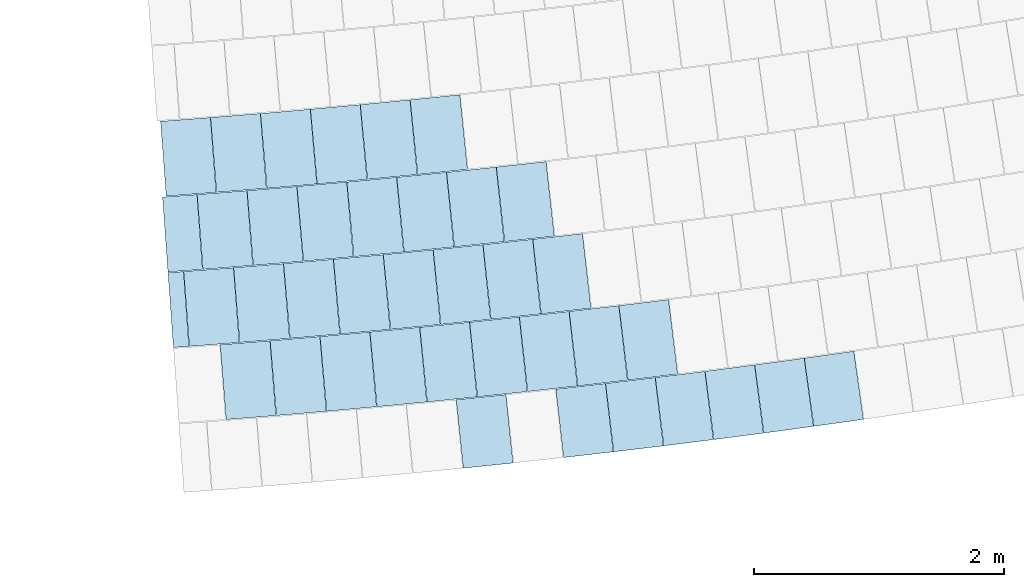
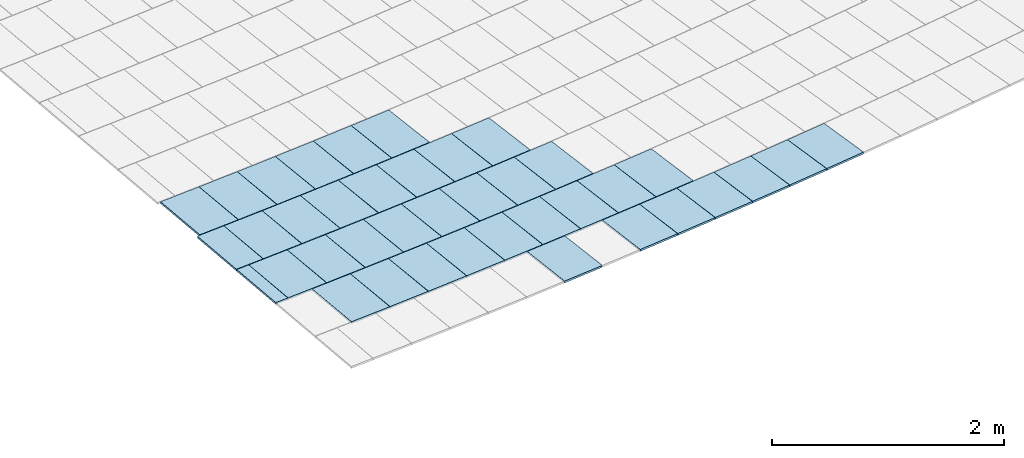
# One storey, part 23 of 438: 39 slabs.
"""IFC2X3 building model written with IfcOpenShell, lengths in millimetres."""

import ifcopenshell
import ifcopenshell.guid

model = None  # the IFC model being written
_history = None  # IfcOwnerHistory: only IFC2X3 demands one
_inside = {}  # id of a spatial element -> (the spatial element, [elements in it])
_under = {}  # id of a project, library or spatial element -> (it, [spatial elements below it])
_declared = {}  # id of a project -> (the project, [libraries it declares])
_typed = {}  # id of a type object -> (the type object, [elements of that type])
_made_of = {}  # id of a material, layer set ... -> (it, [elements and type objects made of it])


def new_model(schema):
    """Start an empty IFC model of exactly this schema.

    Asked for "IFC4X3", IfcOpenShell would pick the latest addendum, in which some entities
    have other attributes; the version numbers below select the first issue.
    IFC2X3 requires an IfcOwnerHistory on every rooted entity: one is made here for all.
    """
    global model, _history
    if schema == "IFC4X3":
        model = ifcopenshell.file(schema_version=(4, 3, 0, 0))
    else:
        model = ifcopenshell.file(schema=schema)
    _inside.clear()
    _under.clear()
    _declared.clear()
    _typed.clear()
    _made_of.clear()
    _history = None
    if model.schema == "IFC2X3":
        org = make("IfcOrganization", Name="unknown")
        user = make(
            "IfcPersonAndOrganization",
            ThePerson=make("IfcPerson", FamilyName="unknown"),
            TheOrganization=org,
        )
        app = make(
            "IfcApplication",
            ApplicationDeveloper=org,
            Version="unknown",
            ApplicationFullName="unknown",
            ApplicationIdentifier="unknown",
        )
        _history = make(
            "IfcOwnerHistory",
            OwningUser=user,
            OwningApplication=app,
            ChangeAction="ADDED",
            CreationDate=0,
        )
    return model


def make(cls, **values):
    """One entity of the class cls with the attributes given. An attribute that is None is left unset."""
    return model.create_entity(
        cls, **{name: value for name, value in values.items() if value is not None}
    )


def entity(cls, *values):
    """Any entity or typed value of the class cls, its attributes in the order of the schema. None: left unset."""
    e = model.create_entity(cls)
    for i, value in enumerate(values):
        if value is not None:
            e[i] = value
    return e


def rooted(cls, **values):
    """An entity with a GlobalId (a new one), such as an element, a storey or a relation."""
    return make(cls, GlobalId=ifcopenshell.guid.new(), OwnerHistory=_history, **values)


def si_unit(unit_type, name, prefix=None):
    """IfcSIUnit, for example si_unit("LENGTHUNIT", "METRE", prefix="MILLI")."""
    return make("IfcSIUnit", UnitType=unit_type, Prefix=prefix, Name=name)


def converted_unit(unit_type, name, factor, base, dimensions=None, offset=None):
    """IfcConversionBasedUnit, such as the inch: factor (a typed value) times the base unit."""
    return make(
        "IfcConversionBasedUnit"
        if offset is None
        else "IfcConversionBasedUnitWithOffset",
        ConversionOffset=offset,
        Dimensions=None
        if dimensions is None
        else entity("IfcDimensionalExponents", *dimensions),
        UnitType=unit_type,
        Name=name,
        ConversionFactor=make(
            "IfcMeasureWithUnit", ValueComponent=factor, UnitComponent=base
        ),
    )


def derived_unit(unit_type, elements):
    """IfcDerivedUnit: a product of units, each with its exponent."""
    return make(
        "IfcDerivedUnit",
        Elements=[
            make("IfcDerivedUnitElement", Unit=unit, Exponent=power)
            for unit, power in elements
        ],
        UnitType=unit_type,
    )


def assignment(units):
    """IfcUnitAssignment: the units of a project."""
    return None if units is None else make("IfcUnitAssignment", Units=units)


def point(xyz):
    """IfcCartesianPoint."""
    return None if xyz is None else make("IfcCartesianPoint", Coordinates=xyz)


def direction(xyz):
    """IfcDirection."""
    return None if xyz is None else make("IfcDirection", DirectionRatios=xyz)


def frame(location, z_axis=None, x_axis=None):
    """IfcAxis2Placement3D, a coordinate frame: its origin and axes. An axis left out is left unset."""
    return make(
        "IfcAxis2Placement3D",
        Location=point(location),
        Axis=direction(z_axis),
        RefDirection=direction(x_axis),
    )


def frame_2d(location, x_axis=None):
    """IfcAxis2Placement2D, a coordinate frame in the plane: its origin and x axis."""
    return make(
        "IfcAxis2Placement2D", Location=point(location), RefDirection=direction(x_axis)
    )


def origin():
    """The frame at (0, 0, 0) with its axes left unset."""
    return frame((0.0, 0.0, 0.0))


def place(relative_to, where):
    """IfcLocalPlacement: puts the frame where relative to a parent placement (None: the world)."""
    return make(
        "IfcLocalPlacement", PlacementRelTo=relative_to, RelativePlacement=where
    )


def context(
    kind, dimensions, precision=None, world=None, true_north=None, identifier=None
):
    """IfcGeometricRepresentationContext, for example the 3D "Model" context."""
    return make(
        "IfcGeometricRepresentationContext",
        ContextIdentifier=identifier,
        ContextType=kind,
        CoordinateSpaceDimension=dimensions,
        Precision=precision,
        WorldCoordinateSystem=world,
        TrueNorth=true_north,
    )


def subcontext(parent, identifier, kind, view, scale=None):
    """IfcGeometricRepresentationSubContext, for example "Body" below "Model"."""
    return make(
        "IfcGeometricRepresentationSubContext",
        ContextIdentifier=identifier,
        ContextType=kind,
        ParentContext=parent,
        TargetScale=scale,
        TargetView=view,
    )


def project(units=None, contexts=None):
    """IfcProject with its units and contexts."""
    return rooted(
        "IfcProject",
        Name="project",
        RepresentationContexts=contexts,
        UnitsInContext=assignment(units),
    )


def spatial(cls, under=None, at=None, **own):
    """A site, building, storey or space (cls), placed at a placement, below another one or the project."""
    s = rooted(cls, ObjectPlacement=at, **own)
    if under is not None:
        _under.setdefault(under.id(), (under, []))[1].append(s)
    return s


def polyline(points):
    """IfcPolyline through the points."""
    return make("IfcPolyline", Points=[point(p) for p in points])


def profile(cls, at=None, kind="AREA", **sizes):
    """A parametric profile (cls). Its sizes go by their IFC names, for example OverallWidth=200.0."""
    return make(cls, ProfileType=kind, Position=at, **sizes)


def rectangle(**sizes):
    """IfcRectangleProfileDef."""
    return profile("IfcRectangleProfileDef", **sizes)


def outline(outer, holes=None, kind="AREA"):
    """IfcArbitraryClosedProfileDef: a profile drawn as a closed curve; with holes, ...WithVoids."""
    if holes is None:
        return make("IfcArbitraryClosedProfileDef", ProfileType=kind, OuterCurve=outer)
    return make(
        "IfcArbitraryProfileDefWithVoids",
        ProfileType=kind,
        OuterCurve=outer,
        InnerCurves=holes,
    )


def extrude(swept, where, along, depth):
    """IfcExtrudedAreaSolid: the profile swept, set in the frame where, extruded along a direction by depth."""
    return make(
        "IfcExtrudedAreaSolid",
        SweptArea=swept,
        Position=where,
        ExtrudedDirection=direction(along),
        Depth=depth,
    )


def shape(context_of_items, identifier, shape_type, items):
    """IfcShapeRepresentation: the items that make up one representation, for example the "Body"."""
    return make(
        "IfcShapeRepresentation",
        ContextOfItems=context_of_items,
        RepresentationIdentifier=identifier,
        RepresentationType=shape_type,
        Items=items,
    )


def material(Name=None, Category=None):
    """IfcMaterial."""
    return make("IfcMaterial", Name=Name, Category=Category)


def layer(
    of_material, thickness, ventilated=None, Name=None, Category=None, Priority=None
):
    """IfcMaterialLayer: one layer of a wall or slab, of a material (None: an air gap)."""
    return make(
        "IfcMaterialLayer",
        Material=of_material,
        LayerThickness=thickness,
        IsVentilated=ventilated,
        Name=Name,
        Category=Category,
        Priority=Priority,
    )


def layer_set(layers, Name=None):
    """IfcMaterialLayerSet."""
    return make("IfcMaterialLayerSet", MaterialLayers=layers, LayerSetName=Name)


def layer_usage(for_layer_set, set_direction, sense, offset, extent=None):
    """IfcMaterialLayerSetUsage: how a layer set lies in its element."""
    return make(
        "IfcMaterialLayerSetUsage",
        ForLayerSet=for_layer_set,
        LayerSetDirection=set_direction,
        DirectionSense=sense,
        OffsetFromReferenceLine=offset,
        ReferenceExtent=extent,
    )


def made_of(thing, what):
    """Note that an element or type object is made of a material, layer set ...; save() writes the relation."""
    if what is not None:
        _made_of.setdefault(what.id(), (what, []))[1].append(thing)
    return thing


def type_object(cls, material=None, **own):
    """A type object (cls), such as IfcWallType, which elements share."""
    return made_of(rooted(cls, **own), material)


def element(
    cls,
    number,
    at=None,
    inside=None,
    cuts=None,
    type_object=None,
    material=None,
    context=None,
    identifier="Body",
    shape_type=None,
    held_by="IfcProductDefinitionShape",
    body=None,
    shapes=None,
    **own,
):
    """One element of the class cls, such as IfcWall. Its Tag is "e" and its number.

    at: its placement. inside: the storey or other place that contains it. cuts: it is an
    opening in that element (IfcRelVoidsElement). A single representation is given by context,
    identifier, shape_type and body (its items); several are given by shapes. held_by: the class
    of the entity that holds the representations. save() writes the other relations.
    """
    e = rooted(cls, Tag="e%d" % number, ObjectPlacement=at, **own)
    if body is not None:
        shapes = [shape(context, identifier, shape_type, body)]
    if shapes is not None:
        e.Representation = make(held_by, Representations=shapes)
    if inside is not None:
        _inside.setdefault(inside.id(), (inside, []))[1].append(e)
    if cuts is not None:
        rooted(
            "IfcRelVoidsElement", RelatingBuildingElement=cuts, RelatedOpeningElement=e
        )
    if type_object is not None:
        _typed.setdefault(type_object.id(), (type_object, []))[1].append(e)
    return made_of(e, material)


def aggregate(whole, parts):
    """IfcRelAggregates: a whole, such as a stair, and the parts it consists of."""
    return rooted("IfcRelAggregates", RelatingObject=whole, RelatedObjects=parts)


def save(model, path):
    """Write the relations noted so far, then the file.

    IfcRelAggregates (storeys below a building ...), IfcRelContainedInSpatialStructure (elements
    in a storey), IfcRelDefinesByType, IfcRelAssociatesMaterial and IfcRelDeclares: one each for
    every whole, place, type object, material and project.
    """
    for whole, parts in _under.values():
        aggregate(whole, parts)
    for where, things in _inside.values():
        rooted(
            "IfcRelContainedInSpatialStructure",
            RelatedElements=things,
            RelatingStructure=where,
        )
    for kind, things in _typed.values():
        rooted("IfcRelDefinesByType", RelatedObjects=things, RelatingType=kind)
    for what, things in _made_of.values():
        rooted("IfcRelAssociatesMaterial", RelatedObjects=things, RelatingMaterial=what)
    for by, libraries in _declared.values():
        rooted("IfcRelDeclares", RelatingContext=by, RelatedDefinitions=libraries)
    model.write(path)


model = new_model("IFC2X3")

# Units and contexts
model_context = context("Model", 3, precision=0.01, world=origin(), true_north=direction((6.123031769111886e-17, 1.0)))
body_context = subcontext(model_context, "Body", "Model", "MODEL_VIEW")
ifc_project = project(units=[si_unit("LENGTHUNIT", "METRE", prefix="MILLI"), si_unit("AREAUNIT", "SQUARE_METRE"), si_unit("VOLUMEUNIT", "CUBIC_METRE"), converted_unit("PLANEANGLEUNIT", "DEGREE", entity("IfcRatioMeasure", 0.017453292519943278), si_unit("PLANEANGLEUNIT", "RADIAN"), dimensions=[0, 0, 0, 0, 0, 0, 0]), si_unit("MASSUNIT", "GRAM", prefix="KILO"), derived_unit("MASSDENSITYUNIT", [(si_unit("MASSUNIT", "GRAM", prefix="KILO"), 1), (si_unit("LENGTHUNIT", "METRE"), -3)]), derived_unit("MOMENTOFINERTIAUNIT", [(si_unit("LENGTHUNIT", "METRE"), 4)]), si_unit("TIMEUNIT", "SECOND"), si_unit("FREQUENCYUNIT", "HERTZ"), si_unit("THERMODYNAMICTEMPERATUREUNIT", "DEGREE_CELSIUS"), derived_unit("THERMALTRANSMITTANCEUNIT", [(si_unit("MASSUNIT", "GRAM", prefix="KILO"), 1), (si_unit("THERMODYNAMICTEMPERATUREUNIT", "KELVIN"), -1), (si_unit("TIMEUNIT", "SECOND"), -3)]), derived_unit("THERMALCONDUCTANCEUNIT", [(si_unit("MASSUNIT", "GRAM", prefix="KILO"), 1), (si_unit("LENGTHUNIT", "METRE"), 1), (si_unit("THERMODYNAMICTEMPERATUREUNIT", "KELVIN"), -1), (si_unit("TIMEUNIT", "SECOND"), -3)]), derived_unit("VOLUMETRICFLOWRATEUNIT", [(si_unit("LENGTHUNIT", "METRE"), 3), (si_unit("TIMEUNIT", "SECOND"), -1)]), derived_unit("MASSFLOWRATEUNIT", [(si_unit("MASSUNIT", "GRAM", prefix="KILO"), 1), (si_unit("TIMEUNIT", "SECOND"), -1)]), derived_unit("ROTATIONALFREQUENCYUNIT", [(si_unit("TIMEUNIT", "SECOND"), -1)]), si_unit("ELECTRICCURRENTUNIT", "AMPERE"), si_unit("ELECTRICVOLTAGEUNIT", "VOLT"), si_unit("POWERUNIT", "WATT"), converted_unit("FORCEUNIT", "KIP", entity("IfcRatioMeasure", 2.088543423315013e-05), si_unit("FORCEUNIT", "NEWTON"), dimensions=[1, 1, -2, 0, 0, 0, 0]), si_unit("ILLUMINANCEUNIT", "LUX"), si_unit("LUMINOUSFLUXUNIT", "LUMEN"), si_unit("LUMINOUSINTENSITYUNIT", "CANDELA"), derived_unit("USERDEFINED", [(si_unit("MASSUNIT", "GRAM", prefix="KILO"), -1), (si_unit("LENGTHUNIT", "METRE"), -2), (si_unit("TIMEUNIT", "SECOND"), 3), (si_unit("LUMINOUSFLUXUNIT", "LUMEN"), 1)]), derived_unit("USERDEFINED", [(si_unit("MASSUNIT", "GRAM", prefix="KILO"), 1), (si_unit("LENGTHUNIT", "METRE"), 3), (si_unit("TIMEUNIT", "SECOND"), -3), (si_unit("ELECTRICCURRENTUNIT", "AMPERE"), -2)]), derived_unit("USERDEFINED", [(si_unit("LENGTHUNIT", "METRE"), 2), (si_unit("TIMEUNIT", "SECOND"), -2)]), derived_unit("SOUNDPOWERUNIT", [(si_unit("MASSUNIT", "GRAM", prefix="KILO"), 1), (si_unit("LENGTHUNIT", "METRE"), 2), (si_unit("TIMEUNIT", "SECOND"), -3)]), derived_unit("SOUNDPRESSUREUNIT", [(si_unit("MASSUNIT", "GRAM", prefix="KILO"), 1), (si_unit("LENGTHUNIT", "METRE"), -1), (si_unit("TIMEUNIT", "SECOND"), -2)]), derived_unit("LINEARVELOCITYUNIT", [(si_unit("LENGTHUNIT", "METRE"), 1), (si_unit("TIMEUNIT", "SECOND"), -1)]), si_unit("PRESSUREUNIT", "PASCAL"), derived_unit("USERDEFINED", [(si_unit("LENGTHUNIT", "METRE"), -2), (si_unit("MASSUNIT", "GRAM", prefix="KILO"), 1), (si_unit("TIMEUNIT", "SECOND"), -2)]), derived_unit("LINEARFORCEUNIT", [(si_unit("MASSUNIT", "GRAM", prefix="KILO"), 1), (si_unit("LENGTHUNIT", "METRE"), 1), (si_unit("TIMEUNIT", "SECOND"), -2), (si_unit("LENGTHUNIT", "METRE"), -1)]), derived_unit("PLANARFORCEUNIT", [(si_unit("MASSUNIT", "GRAM", prefix="KILO"), 1), (si_unit("LENGTHUNIT", "METRE"), 1), (si_unit("TIMEUNIT", "SECOND"), -2), (si_unit("LENGTHUNIT", "METRE"), -2)]), derived_unit("SPECIFICHEATCAPACITYUNIT", [(si_unit("LENGTHUNIT", "METRE"), 2), (si_unit("TIMEUNIT", "SECOND"), -2), (si_unit("THERMODYNAMICTEMPERATUREUNIT", "KELVIN"), -1)]), derived_unit("VAPORPERMEABILITYUNIT", [(si_unit("TIMEUNIT", "SECOND"), 1), (si_unit("LENGTHUNIT", "METRE"), -1)]), derived_unit("DYNAMICVISCOSITYUNIT", [(si_unit("MASSUNIT", "GRAM", prefix="KILO"), 1), (si_unit("LENGTHUNIT", "METRE"), -1), (si_unit("TIMEUNIT", "SECOND"), -1)]), derived_unit("THERMALEXPANSIONCOEFFICIENTUNIT", [(si_unit("THERMODYNAMICTEMPERATUREUNIT", "KELVIN"), -1)])], contexts=[model_context])

# Site, building, storey
site_placement = place(None, frame((0.0, 0.0, 0.0), z_axis=(0.0, 0.0, 1.0), x_axis=(0.8191520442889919, 0.5735764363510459, 0.0)))
site = spatial("IfcSite", under=ifc_project, at=site_placement, Name="Default", CompositionType="ELEMENT")
building_placement = place(site_placement, origin())
building = spatial("IfcBuilding", under=site, at=building_placement, CompositionType="ELEMENT")
storey_placement = place(building_placement, origin())
storey = spatial("IfcBuildingStorey", under=building, at=storey_placement, Name="PLAN", CompositionType="ELEMENT", Elevation=0.0)

# Slabs
ifc_material = material(Name="Paint-01")
ifc_layer = layer(ifc_material, 20.00000000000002)
ifc_layer_set = layer_set([ifc_layer], Name="Floor:Slab-179:1000")
ifc_layer_usage = layer_usage(ifc_layer_set, "AXIS3", "POSITIVE", 0.0)
slab_type = type_object("IfcSlabType", Name="Floor:Slab-179:1000", PredefinedType="FLOOR", material=ifc_layer_set)
slab_1_placement = place(storey_placement, origin())
element("IfcSlab", 1, at=slab_1_placement, inside=storey, type_object=slab_type, material=ifc_layer_usage, Name="Floor:Slab-179:1000", ObjectType="Floor:Slab-179:1000", PredefinedType="FLOOR", context=body_context, shape_type="SweptSolid", body=[
    extrude(outline(polyline([(-275.0000010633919, -200.00000294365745), (274.9999989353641, -200.00000294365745), (275.0000010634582, 200.00000294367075), (-274.9999989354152, 200.0000029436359), (-275.0000010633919, -200.00000294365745)])), frame((-77391.08551675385, -136263.52947094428, 20.0), z_axis=(0.0, 0.0, -1.0), x_axis=(-0.4769246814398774, -0.8789441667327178, 0.0)), (0.0, 0.0, 1.0), 20.00000000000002),
])
slab_2_placement = place(storey_placement, origin())
element("IfcSlab", 2, at=slab_2_placement, inside=storey, type_object=slab_type, material=ifc_layer_usage, Name="Floor:Slab-179:1000", ObjectType="Floor:Slab-179:1000", PredefinedType="FLOOR", context=body_context, shape_type="SweptSolid", body=[
    extrude(outline(polyline([(-275.0000010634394, -200.0000029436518), (274.99999893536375, -200.0000029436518), (275.0000010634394, 200.0000029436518), (-274.99999893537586, 200.00000294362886), (-275.0000010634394, -200.0000029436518)])), frame((-76683.47013230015, -136642.7719090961, 20.0), z_axis=(0.0, 0.0, -1.0), x_axis=(-0.4678205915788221, -0.883823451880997, 0.0)), (0.0, 0.0, 1.0), 20.00000000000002),
])
slab_3_placement = place(storey_placement, origin())
element("IfcSlab", 3, at=slab_3_placement, inside=storey, type_object=slab_type, material=ifc_layer_usage, Name="Floor:Slab-179:1000", ObjectType="Floor:Slab-179:1000", PredefinedType="FLOOR", context=body_context, shape_type="SweptSolid", body=[
    extrude(outline(polyline([(-275.0000010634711, -200.00000294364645), (274.99999893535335, -200.00000294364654), (275.00000106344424, 200.00000294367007), (-274.9999989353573, 200.0000029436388), (-275.0000010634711, -200.00000294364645)])), frame((-75971.97528662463, -137014.68512987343, 20.0), z_axis=(0.0, 0.0, -1.0), x_axis=(-0.4586665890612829, -0.8886084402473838, 0.0)), (0.0, 0.0, 1.0), 20.000000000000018),
])
slab_4_placement = place(storey_placement, origin())
element("IfcSlab", 4, at=slab_4_placement, inside=storey, type_object=slab_type, material=ifc_layer_usage, Name="Floor:Slab-179:1000", ObjectType="Floor:Slab-179:1000", PredefinedType="FLOOR", context=body_context, shape_type="SweptSolid", body=[
    extrude(outline(polyline([(-275.0000010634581, -200.00000294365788), (274.99999893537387, -200.0000029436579), (275.0000010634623, 200.00000294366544), (-274.99999893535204, 200.00000294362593), (-275.0000010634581, -200.00000294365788)])), frame((-78094.74594317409, -135876.99827750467, 20.0), z_axis=(0.0, 0.0, -1.0), x_axis=(-0.485977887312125, -0.873971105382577, 0.0)), (0.0, 0.0, 1.0), 20.00000000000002),
])
slab_5_placement = place(storey_placement, origin())
element("IfcSlab", 5, at=slab_5_placement, inside=storey, type_object=slab_type, material=ifc_layer_usage, Name="Floor:Slab-179:1000", ObjectType="Floor:Slab-179:1000", PredefinedType="FLOOR", context=body_context, shape_type="SweptSolid", body=[
    extrude(outline(polyline([(-275.0000010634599, -200.00000294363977), (274.9999989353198, -200.0000029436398), (275.0000010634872, 200.00000294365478), (-274.99999893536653, 200.0000029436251), (-275.0000010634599, -200.00000294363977)])), frame((-76328.20290730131, -136829.64717004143, 20.0), z_axis=(0.0, 0.0, -1.0), x_axis=(-0.46324976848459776, -0.8862277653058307, 0.0)), (0.0, 0.0, 1.0), 20.00000000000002),
])
slab_6_placement = place(storey_placement, origin())
element("IfcSlab", 6, at=slab_6_placement, inside=storey, type_object=slab_type, material=ifc_layer_usage, Name="Floor:Slab-179:1000", ObjectType="Floor:Slab-179:1000", PredefinedType="FLOOR", context=body_context, shape_type="SweptSolid", body=[
    extrude(outline(polyline([(-275.00000106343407, -200.00000294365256), (274.99999893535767, -200.0000029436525), (275.00000106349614, 200.00000294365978), (-274.9999989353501, 200.0000029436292), (-275.00000106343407, -200.00000294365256)])), frame((-75614.79677198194, -137197.88085304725, 20.0), z_axis=(0.0, 0.0, -1.0), x_axis=(-0.4540711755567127, -0.8909654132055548, 0.0)), (0.0, 0.0, 1.0), 20.00000000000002),
])
slab_7_placement = place(storey_placement, origin())
element("IfcSlab", 7, at=slab_7_placement, inside=storey, type_object=slab_type, material=ifc_layer_usage, Name="Floor:Slab-179:1000", ObjectType="Floor:Slab-179:1000", PredefinedType="FLOOR", context=body_context, shape_type="SweptSolid", body=[
    extrude(outline(polyline([(-275.00000106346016, -200.00000294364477), (274.99999893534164, -200.0000029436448), (275.00000106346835, 200.00000294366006), (-274.99999893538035, 200.0000029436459), (-275.00000106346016, -200.00000294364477)])), frame((-77037.76748552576, -136454.06433158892, 20.0), z_axis=(0.0, 0.0, -1.0), x_axis=(-0.4723789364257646, -0.881395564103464, 0.0)), (0.0, 0.0, 1.0), 20.00000000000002),
])
slab_8_placement = place(storey_placement, origin())
element("IfcSlab", 8, at=slab_8_placement, inside=storey, type_object=slab_type, material=ifc_layer_usage, Name="Floor:Slab-179:1000", ObjectType="Floor:Slab-179:1000", PredefinedType="FLOOR", context=body_context, shape_type="SweptSolid", body=[
    extrude(outline(polyline([(-300.0000010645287, -200.00000294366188), (299.99999893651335, -200.00000294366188), (300.00000106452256, 200.0000029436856), (-299.9999989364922, 200.0000029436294), (-300.0000010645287, -200.00000294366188)])), frame((-79407.43026454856, -134458.4137461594, 20.0), z_axis=(0.0, 0.0, -1.0), x_axis=(-0.5066474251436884, -0.8621533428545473, 0.0)), (0.0, 0.0, 1.0), 20.00000000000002),
])
slab_9_placement = place(storey_placement, origin())
element("IfcSlab", 9, at=slab_9_placement, inside=storey, type_object=slab_type, material=ifc_layer_usage, Name="Floor:Slab-179:1000", ObjectType="Floor:Slab-179:1000", PredefinedType="FLOOR", context=body_context, shape_type="SweptSolid", body=[
    extrude(outline(polyline([(-300.00000106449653, -200.00000294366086), (299.9999989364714, -200.00000294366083), (300.0000010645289, 200.00000294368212), (-299.9999989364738, 200.00000294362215), (-300.00000106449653, -200.00000294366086)])), frame((-79060.69543743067, -134660.96146570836, 20.0), z_axis=(0.0, 0.0, -1.0), x_axis=(-0.5021528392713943, -0.8647788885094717, 0.0)), (0.0, 0.0, 1.0), 20.00000000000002),
])
slab_10_placement = place(storey_placement, origin())
element("IfcSlab", 10, at=slab_10_placement, inside=storey, type_object=slab_type, material=ifc_layer_usage, Name="Floor:Slab-179:1000", ObjectType="Floor:Slab-179:1000", PredefinedType="FLOOR", context=body_context, shape_type="SweptSolid", body=[
    extrude(outline(polyline([(-300.0000010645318, -200.00000294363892), (299.9999989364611, -200.00000294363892), (300.00000106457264, 200.00000294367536), (-299.99999893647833, 200.00000294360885), (-300.0000010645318, -200.00000294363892)])), frame((-78712.9109965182, -134861.70160043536, 20.0), z_axis=(0.0, 0.0, -1.0), x_axis=(-0.4976446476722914, -0.8673810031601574, 0.0)), (0.0, 0.0, 1.0), 20.00000000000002),
])
slab_11_placement = place(storey_placement, origin())
element("IfcSlab", 11, at=slab_11_placement, inside=storey, type_object=slab_type, material=ifc_layer_usage, Name="Floor:Slab-179:1000", ObjectType="Floor:Slab-179:1000", PredefinedType="FLOOR", context=body_context, shape_type="SweptSolid", body=[
    extrude(outline(polyline([(-300.000001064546, -200.00000294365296), (299.9999989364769, -200.00000294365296), (300.00000106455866, 200.00000294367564), (-299.99999893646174, 200.0000029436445), (-300.000001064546, -200.00000294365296)])), frame((-78014.23099408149, -135257.73740849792, 20.0), z_axis=(0.0, 0.0, -1.0), x_axis=(-0.48858793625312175, -0.8725146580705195, 0.0)), (0.0, 0.0, 1.0), 20.00000000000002),
])
slab_12_placement = place(storey_placement, origin())
element("IfcSlab", 12, at=slab_12_placement, inside=storey, type_object=slab_type, material=ifc_layer_usage, Name="Floor:Slab-179:1000", ObjectType="Floor:Slab-179:1000", PredefinedType="FLOOR", context=body_context, shape_type="SweptSolid", body=[
    extrude(outline(polyline([(-300.00000106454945, -200.00000294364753), (299.99999893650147, -200.0000029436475), (300.0000010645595, 200.00000294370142), (-299.99999893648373, 200.000002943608), (-300.00000106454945, -200.00000294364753)])), frame((-77663.35436314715, -135453.02235132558, 20.0), z_axis=(0.0, 0.0, -1.0), x_axis=(-0.4840396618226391, -0.8750460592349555, 0.0)), (0.0, 0.0, 1.0), 20.00000000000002),
])
slab_13_placement = place(storey_placement, origin())
element("IfcSlab", 13, at=slab_13_placement, inside=storey, type_object=slab_type, material=ifc_layer_usage, Name="Floor:Slab-179:1000", ObjectType="Floor:Slab-179:1000", PredefinedType="FLOOR", context=body_context, shape_type="SweptSolid", body=[
    extrude(outline(polyline([(-300.0000010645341, -200.00000294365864), (299.9999989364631, -200.00000294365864), (300.00000106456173, 200.00000294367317), (-299.99999893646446, 200.0000029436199), (-300.0000010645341, -200.00000294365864)])), frame((-77311.46597908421, -135646.47824860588, 20.0), z_axis=(0.0, 0.0, -1.0), x_axis=(-0.4794782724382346, -0.8775537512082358, 0.0)), (0.0, 0.0, 1.0), 20.00000000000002),
])
slab_14_placement = place(storey_placement, origin())
element("IfcSlab", 14, at=slab_14_placement, inside=storey, type_object=slab_type, material=ifc_layer_usage, Name="Floor:Slab-179:1000", ObjectType="Floor:Slab-179:1000", PredefinedType="FLOOR", context=body_context, shape_type="SweptSolid", body=[
    extrude(outline(polyline([(-300.0000010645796, -200.00000294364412), (299.99999893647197, -200.0000029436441), (300.00000106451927, 200.0000029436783), (-299.9999989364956, 200.00000294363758), (-300.0000010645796, -200.00000294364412)])), frame((-78364.08636495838, -135060.62871132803, 20.0), z_axis=(0.0, 0.0, -1.0), x_axis=(-0.4931229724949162, -0.8699596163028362, 0.0)), (0.0, 0.0, 1.0), 20.00000000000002),
])
slab_15_placement = place(storey_placement, origin())
element("IfcSlab", 15, at=slab_15_placement, inside=storey, type_object=slab_type, material=ifc_layer_usage, Name="Floor:Slab-179:1000", ObjectType="Floor:Slab-179:1000", PredefinedType="FLOOR", context=body_context, shape_type="SweptSolid", body=[
    extrude(outline(polyline([(-300.0000010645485, -200.0000029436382), (299.9999989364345, -200.00000294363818), (300.0000010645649, 200.0000029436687), (-299.9999989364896, 200.00000294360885), (-300.0000010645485, -200.0000029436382)])), frame((-76958.57537623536, -135838.09985869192, 20.0), z_axis=(0.0, 0.0, -1.0), x_axis=(-0.4749038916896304, -0.8800376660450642, 0.0)), (0.0, 0.0, 1.0), 20.00000000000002),
])
slab_16_placement = place(storey_placement, origin())
element("IfcSlab", 16, at=slab_16_placement, inside=storey, type_object=slab_type, material=ifc_layer_usage, Name="Floor:Slab-179:1000", ObjectType="Floor:Slab-179:1000", PredefinedType="FLOOR", context=body_context, shape_type="SweptSolid", body=[
    extrude(outline(polyline([(-300.00000106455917, -200.00000294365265), (299.9999989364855, -200.00000294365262), (300.0000010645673, 200.00000294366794), (-299.99999893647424, 200.00000294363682), (-300.00000106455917, -200.00000294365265)])), frame((-76604.69211609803, -136027.88198963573, 20.0), z_axis=(0.0, 0.0, -1.0), x_axis=(-0.4703166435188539, -0.8824977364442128, 0.0)), (0.0, 0.0, 1.0), 20.00000000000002),
])
slab_17_placement = place(storey_placement, origin())
element("IfcSlab", 17, at=slab_17_placement, inside=storey, type_object=slab_type, material=ifc_layer_usage, Name="Floor:Slab-179:1000", ObjectType="Floor:Slab-179:1000", PredefinedType="FLOOR", context=body_context, shape_type="SweptSolid", body=[
    extrude(outline(polyline([(-300.0, -62.38476605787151), (300.0, -62.384766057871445), (300.0, 62.089898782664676), (-300.0, 62.67963333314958), (-300.0, -62.38476605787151)])), frame((-79538.95283050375, -133677.5731251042, 20.0), z_axis=(0.0, 0.0, -1.0), x_axis=(-0.5139128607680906, -0.8578423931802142, 0.0)), (0.0, 0.0, 1.0), 20.000000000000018),
])
slab_18_placement = place(storey_placement, origin())
element("IfcSlab", 18, at=slab_18_placement, inside=storey, type_object=slab_type, material=ifc_layer_usage, Name="Floor:Slab-179:1000", ObjectType="Floor:Slab-179:1000", PredefinedType="FLOOR", context=body_context, shape_type="SweptSolid", body=[
    extrude(outline(polyline([(-300.0000010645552, -200.0000029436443), (299.9999989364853, -200.00000294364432), (300.00000106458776, 200.00000294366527), (-299.9999989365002, 200.00000294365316), (-300.0000010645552, -200.0000029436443)])), frame((-79311.97882296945, -133812.31981453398, 20.0), z_axis=(0.0, 0.0, -1.0), x_axis=(-0.5094050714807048, -0.8605268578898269, 0.0)), (0.0, 0.0, 1.0), 20.000000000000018),
])
slab_19_placement = place(storey_placement, origin())
element("IfcSlab", 19, at=slab_19_placement, inside=storey, type_object=slab_type, material=ifc_layer_usage, Name="Floor:Slab-179:1000", ObjectType="Floor:Slab-179:1000", PredefinedType="FLOOR", context=body_context, shape_type="SweptSolid", body=[
    extrude(rectangle(XDim=599.9999516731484, YDim=399.99997366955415, at=frame_2d((1.5006662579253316e-11, -8.65441052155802e-12), x_axis=(1.0, 0.0))), frame((-78618.65205899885, -134217.94270914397, 20.0), z_axis=(0.0, 0.0, -1.0), x_axis=(-0.5000000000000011, -0.866025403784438, 0.0)), (0.0, 0.0, 1.0), 20.00000000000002),
])
slab_20_placement = place(storey_placement, origin())
element("IfcSlab", 20, at=slab_20_placement, inside=storey, type_object=slab_type, material=ifc_layer_usage, Name="Floor:Slab-179:1000", ObjectType="Floor:Slab-179:1000", PredefinedType="FLOOR", context=body_context, shape_type="SweptSolid", body=[
    extrude(outline(polyline([(-300.0000010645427, -200.00000294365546), (299.99999893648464, -200.00000294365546), (300.00000106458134, 200.00000294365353), (-299.9999989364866, 200.00000294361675), (-300.0000010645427, -200.00000294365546)])), frame((-77921.23691916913, -134616.00945749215, 20.0), z_axis=(0.0, 0.0, -1.0), x_axis=(-0.4912349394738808, -0.8710271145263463, 0.0)), (0.0, 0.0, 1.0), 20.000000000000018),
])
slab_21_placement = place(storey_placement, origin())
element("IfcSlab", 21, at=slab_21_placement, inside=storey, type_object=slab_type, material=ifc_layer_usage, Name="Floor:Slab-179:1000", ObjectType="Floor:Slab-179:1000", PredefinedType="FLOOR", context=body_context, shape_type="SweptSolid", body=[
    extrude(outline(polyline([(-300.0000010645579, -200.00000294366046), (299.99999893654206, -200.00000294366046), (300.0000010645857, 200.0000029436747), (-299.99999893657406, 200.0000029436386), (-300.0000010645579, -200.00000294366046)])), frame((-77570.94001230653, -134812.3576965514, 20.0), z_axis=(0.0, 0.0, -1.0), x_axis=(-0.4866582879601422, -0.8735924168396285, 0.0)), (0.0, 0.0, 1.0), 20.00000000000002),
])
slab_22_placement = place(storey_placement, origin())
element("IfcSlab", 22, at=slab_22_placement, inside=storey, type_object=slab_type, material=ifc_layer_usage, Name="Floor:Slab-179:1000", ObjectType="Floor:Slab-179:1000", PredefinedType="FLOOR", context=body_context, shape_type="SweptSolid", body=[
    extrude(outline(polyline([(-300.00000106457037, -200.00000294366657), (299.9999989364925, -200.00000294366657), (300.0000010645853, 200.00000294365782), (-299.9999989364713, 200.00000294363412), (-300.00000106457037, -200.00000294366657)])), frame((-78965.87937582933, -134015.975717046, 20.0), z_axis=(0.0, 0.0, -1.0), x_axis=(-0.5048832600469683, -0.8631876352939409, 0.0)), (0.0, 0.0, 1.0), 20.000000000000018),
])
slab_23_placement = place(storey_placement, origin())
element("IfcSlab", 23, at=slab_23_placement, inside=storey, type_object=slab_type, material=ifc_layer_usage, Name="Floor:Slab-179:1000", ObjectType="Floor:Slab-179:1000", PredefinedType="FLOOR", context=body_context, shape_type="SweptSolid", body=[
    extrude(outline(polyline([(-300.0000010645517, -200.0000029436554), (299.99999893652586, -200.0000029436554), (300.0000010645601, 200.00000294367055), (-299.99999893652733, 200.0000029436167), (-300.0000010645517, -200.0000029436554)])), frame((-77219.6177750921, -135006.86538169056, 20.0), z_axis=(0.0, 0.0, -1.0), x_axis=(-0.4820682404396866, -0.8761336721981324, 0.0)), (0.0, 0.0, 1.0), 20.00000000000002),
])
slab_24_placement = place(storey_placement, origin())
element("IfcSlab", 24, at=slab_24_placement, inside=storey, type_object=slab_type, material=ifc_layer_usage, Name="Floor:Slab-179:1000", ObjectType="Floor:Slab-179:1000", PredefinedType="FLOOR", context=body_context, shape_type="SweptSolid", body=[
    extrude(outline(polyline([(-300.0000010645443, -200.00000294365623), (299.9999989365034, -200.0000029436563), (300.000001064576, 200.0000029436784), (-299.9999989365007, 200.00000294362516), (-300.0000010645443, -200.00000294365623)])), frame((-76867.27987820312, -135199.52715879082, 20.0), z_axis=(0.0, 0.0, -1.0), x_axis=(-0.4774649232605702, -0.8786508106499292, 0.0)), (0.0, 0.0, 1.0), 20.00000000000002),
])
slab_25_placement = place(storey_placement, origin())
element("IfcSlab", 25, at=slab_25_placement, inside=storey, type_object=slab_type, material=ifc_layer_usage, Name="Floor:Slab-179:1000", ObjectType="Floor:Slab-179:1000", PredefinedType="FLOOR", context=body_context, shape_type="SweptSolid", body=[
    extrude(outline(polyline([(-300.00000106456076, -200.00000294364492), (299.9999989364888, -200.00000294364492), (300.00000106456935, 200.00000294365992), (-299.9999989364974, 200.00000294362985), (-300.00000106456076, -200.00000294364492)])), frame((-78270.49885322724, -134417.82606929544, 20.0), z_axis=(0.0, 0.0, -1.0), x_axis=(-0.49579806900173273, -0.8684378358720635, 0.0)), (0.0, 0.0, 1.0), 20.00000000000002),
])
slab_26_placement = place(storey_placement, origin())
element("IfcSlab", 26, at=slab_26_placement, inside=storey, type_object=slab_type, material=ifc_layer_usage, Name="Floor:Slab-179:1000", ObjectType="Floor:Slab-179:1000", PredefinedType="FLOOR", context=body_context, shape_type="SweptSolid", body=[
    extrude(outline(polyline([(-300.0000007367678, -138.38117465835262), (299.999999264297, -138.3811746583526), (300.00000073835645, 138.68444329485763), (-299.9999992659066, 138.07790602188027), (-300.0000007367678, -138.38117465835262)])), frame((-79163.21225795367, -133197.0934092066, 20.0), z_axis=(0.0, 0.0, -1.0), x_axis=(-0.5122014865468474, -0.8588653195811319, 0.0)), (0.0, 0.0, 1.0), 20.00000000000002),
])
slab_27_placement = place(storey_placement, origin())
element("IfcSlab", 27, at=slab_27_placement, inside=storey, type_object=slab_type, material=ifc_layer_usage, Name="Floor:Slab-179:1000", ObjectType="Floor:Slab-179:1000", PredefinedType="FLOOR", context=body_context, shape_type="SweptSolid", body=[
    extrude(outline(polyline([(-300.0000010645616, -200.00000294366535), (299.99999893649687, -200.00000294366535), (300.0000010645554, 200.00000294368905), (-299.9999989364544, 200.00000294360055), (-300.0000010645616, -200.00000294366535)])), frame((-78524.15583156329, -133573.26191550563, 20.0), z_axis=(0.0, 0.0, -1.0), x_axis=(-0.5030887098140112, -0.8642347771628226, 0.0)), (0.0, 0.0, 1.0), 20.00000000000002),
])
slab_28_placement = place(storey_placement, origin())
element("IfcSlab", 28, at=slab_28_placement, inside=storey, type_object=slab_type, material=ifc_layer_usage, Name="Floor:Slab-179:1000", ObjectType="Floor:Slab-179:1000", PredefinedType="FLOOR", context=body_context, shape_type="SweptSolid", body=[
    extrude(outline(polyline([(-300.0000010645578, -200.0000029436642), (299.9999989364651, -200.00000294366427), (300.000001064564, 200.0000029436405), (-299.99999893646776, 200.00000294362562), (-300.0000010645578, -200.0000029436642)])), frame((-78870.68425768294, -133370.31192696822, 20.0), z_axis=(0.0, 0.0, -1.0), x_axis=(-0.5076521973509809, -0.8615620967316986, 0.0)), (0.0, 0.0, 1.0), 20.00000000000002),
])
slab_29_placement = place(storey_placement, origin())
element("IfcSlab", 29, at=slab_29_placement, inside=storey, type_object=slab_type, material=ifc_layer_usage, Name="Floor:Slab-179:1000", ObjectType="Floor:Slab-179:1000", PredefinedType="FLOOR", context=body_context, shape_type="SweptSolid", body=[
    extrude(outline(polyline([(-300.0000010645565, -200.0000029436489), (299.9999989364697, -200.0000029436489), (300.0000010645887, 200.0000029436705), (-299.9999989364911, 200.00000294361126), (-300.0000010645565, -200.0000029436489)])), frame((-77827.90332381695, -133973.64988580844, 20.0), z_axis=(0.0, 0.0, -1.0), x_axis=(-0.4939196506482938, -0.8695075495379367, 0.0)), (0.0, 0.0, 1.0), 20.00000000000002),
])
slab_30_placement = place(storey_placement, origin())
element("IfcSlab", 30, at=slab_30_placement, inside=storey, type_object=slab_type, material=ifc_layer_usage, Name="Floor:Slab-179:1000", ObjectType="Floor:Slab-179:1000", PredefinedType="FLOOR", context=body_context, shape_type="SweptSolid", body=[
    extrude(outline(polyline([(-300.00000106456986, -200.00000294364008), (299.99999893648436, -200.00000294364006), (300.0000010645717, 200.00000294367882), (-299.9999989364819, 200.00000294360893), (-300.00000106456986, -200.00000294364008)])), frame((-77478.19871542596, -134171.07666926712, 20.0), z_axis=(0.0, 0.0, -1.0), x_axis=(-0.48931433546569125, -0.8721074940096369, 0.0)), (0.0, 0.0, 1.0), 20.00000000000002),
])
slab_31_placement = place(storey_placement, origin())
element("IfcSlab", 31, at=slab_31_placement, inside=storey, type_object=slab_type, material=ifc_layer_usage, Name="Floor:Slab-179:1000", ObjectType="Floor:Slab-179:1000", PredefinedType="FLOOR", context=body_context, shape_type="SweptSolid", body=[
    extrude(rectangle(XDim=599.9991142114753, YDim=399.99941535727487, at=frame_2d((8.668621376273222e-12, 1.5020873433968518e-11), x_axis=(1.0, 0.0))), frame((-78176.83354671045, -133773.82107217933, 20.0), z_axis=(0.0, 0.0, -1.0), x_axis=(-0.4999999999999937, -0.8660254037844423, 0.0)), (0.0, 0.0, 1.0), 20.00000000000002),
])
slab_32_placement = place(storey_placement, origin())
element("IfcSlab", 32, at=slab_32_placement, inside=storey, type_object=slab_type, material=ifc_layer_usage, Name="Floor:Slab-179:1000", ObjectType="Floor:Slab-179:1000", PredefinedType="FLOOR", context=body_context, shape_type="SweptSolid", body=[
    extrude(outline(polyline([(-300.000001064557, -200.00000294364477), (299.99999893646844, -200.00000294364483), (300.0000010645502, 200.00000294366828), (-299.9999989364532, 200.0000029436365), (-300.000001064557, -200.00000294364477)])), frame((-76775.6816931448, -134560.3682241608, 20.0), z_axis=(0.0, 0.0, -1.0), x_axis=(-0.4800627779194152, -0.8772341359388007, 0.0)), (0.0, 0.0, 1.0), 20.00000000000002),
])
slab_33_placement = place(storey_placement, origin())
element("IfcSlab", 33, at=slab_33_placement, inside=storey, type_object=slab_type, material=ifc_layer_usage, Name="Floor:Slab-179:1000", ObjectType="Floor:Slab-179:1000", PredefinedType="FLOOR", context=body_context, shape_type="SweptSolid", body=[
    extrude(outline(polyline([(-300.00000106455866, -200.00000294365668), (299.9999989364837, -200.00000294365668), (300.000001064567, 200.00000294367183), (-299.99999893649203, 200.0000029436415), (-300.00000106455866, -200.00000294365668)])), frame((-77127.4549019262, -134366.65127203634, 20.0), z_axis=(0.0, 0.0, -1.0), x_axis=(-0.48469533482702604, -0.8746830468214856, 0.0)), (0.0, 0.0, 1.0), 20.00000000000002),
])
slab_34_placement = place(storey_placement, origin())
element("IfcSlab", 34, at=slab_34_placement, inside=storey, type_object=slab_type, material=ifc_layer_usage, Name="Floor:Slab-179:1000", ObjectType="Floor:Slab-179:1000", PredefinedType="FLOOR", context=body_context, shape_type="SweptSolid", body=[
    extrude(outline(polyline([(-300.00000106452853, -200.0000029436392), (299.9999989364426, -200.00000294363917), (300.00000106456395, 200.00000294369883), (-299.999998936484, 200.0000029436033), (-300.00000106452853, -200.0000029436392)])), frame((-78775.09867271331, -132723.95492244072, 20.0), z_axis=(0.0, 0.0, -1.0), x_axis=(-0.5104604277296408, -0.8599012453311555, 0.0)), (0.0, 0.0, 1.0), 20.000000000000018),
])
slab_35_placement = place(storey_placement, origin())
element("IfcSlab", 35, at=slab_35_placement, inside=storey, type_object=slab_type, material=ifc_layer_usage, Name="Floor:Slab-179:1000", ObjectType="Floor:Slab-179:1000", PredefinedType="FLOOR", context=body_context, shape_type="SweptSolid", body=[
    extrude(outline(polyline([(-300.00000106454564, -200.00000294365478), (299.999998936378, -200.0000029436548), (300.00000106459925, 200.0000029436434), (-299.99999893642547, 200.00000294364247), (-300.00000106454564, -200.00000294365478)])), frame((-78429.21888559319, -132928.0335293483, 20.0), z_axis=(0.0, 0.0, -1.0), x_axis=(-0.5058688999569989, -0.8626103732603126, 0.0)), (0.0, 0.0, 1.0), 20.00000000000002),
])
slab_36_placement = place(storey_placement, origin())
element("IfcSlab", 36, at=slab_36_placement, inside=storey, type_object=slab_type, material=ifc_layer_usage, Name="Floor:Slab-179:1000", ObjectType="Floor:Slab-179:1000", PredefinedType="FLOOR", context=body_context, shape_type="SweptSolid", body=[
    extrude(rectangle(XDim=599.9993614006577, YDim=399.9995801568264, at=frame_2d((8.526512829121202e-12, -1.9909407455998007e-11), x_axis=(1.0, 0.0))), frame((-78082.02287829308, -133130.7368483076, 20.0), z_axis=(0.0, 0.0, -1.0), x_axis=(-0.5000000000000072, -0.8660254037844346, 0.0)), (0.0, 0.0, 1.0), 20.000000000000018),
])
slab_37_placement = place(storey_placement, origin())
element("IfcSlab", 37, at=slab_37_placement, inside=storey, type_object=slab_type, material=ifc_layer_usage, Name="Floor:Slab-179:1000", ObjectType="Floor:Slab-179:1000", PredefinedType="FLOOR", context=body_context, shape_type="SweptSolid", body=[
    extrude(outline(polyline([(-300.0000010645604, -200.00000294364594), (299.99999893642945, -200.00000294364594), (300.00000106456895, 200.00000294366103), (-299.9999989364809, 200.00000294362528), (-300.0000010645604, -200.00000294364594)])), frame((-77385.12063285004, -133529.16536189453, 20.0), z_axis=(0.0, 0.0, -1.0), x_axis=(-0.49200857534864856, -0.8705903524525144, 0.0)), (0.0, 0.0, 1.0), 20.00000000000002),
])
slab_38_placement = place(storey_placement, origin())
element("IfcSlab", 38, at=slab_38_placement, inside=storey, type_object=slab_type, material=ifc_layer_usage, Name="Floor:Slab-179:1000", ObjectType="Floor:Slab-179:1000", PredefinedType="FLOOR", context=body_context, shape_type="SweptSolid", body=[
    extrude(outline(polyline([(-300.00000106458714, -200.00000294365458), (299.9999989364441, -200.00000294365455), (300.00000106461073, 200.000002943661), (-299.99999893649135, 200.00000294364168), (-300.00000106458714, -200.00000294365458)])), frame((-77734.21998920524, -133330.64447047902, 20.0), z_axis=(0.0, 0.0, -1.0), x_axis=(-0.4966428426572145, -0.8679550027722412, 0.0)), (0.0, 0.0, 1.0), 20.00000000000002),
])
slab_39_placement = place(storey_placement, origin())
element("IfcSlab", 39, at=slab_39_placement, inside=storey, type_object=slab_type, material=ifc_layer_usage, Name="Floor:Slab-179:1000", ObjectType="Floor:Slab-179:1000", PredefinedType="FLOOR", context=body_context, shape_type="SweptSolid", body=[
    extrude(outline(polyline([(-300.0000010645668, -200.00000294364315), (299.99999893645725, -200.00000294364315), (300.0000010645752, 200.00000294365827), (-299.9999989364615, 200.00000294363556), (-300.0000010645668, -200.00000294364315)])), frame((-77034.96789021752, -133725.82232658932, 20.0), z_axis=(0.0, 0.0, -1.0), x_axis=(-0.4873603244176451, -0.873200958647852, 0.0)), (0.0, 0.0, 1.0), 20.00000000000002),
])

save(model, "model.ifc")
